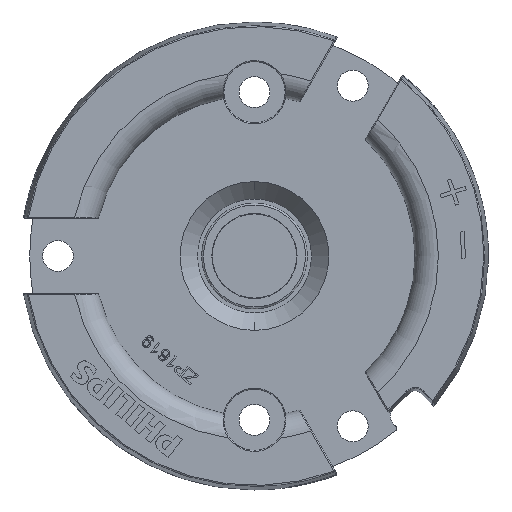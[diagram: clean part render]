
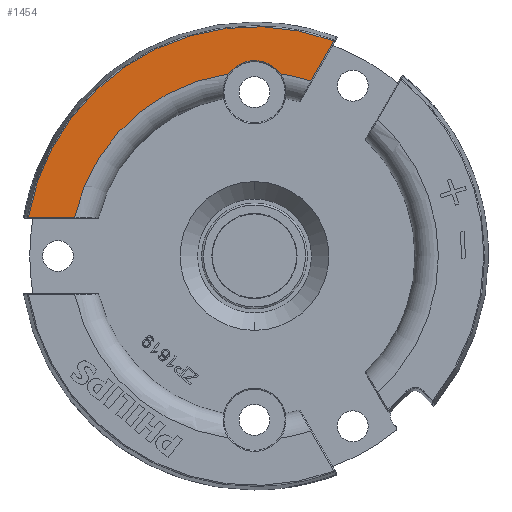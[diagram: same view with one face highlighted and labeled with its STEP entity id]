
A CAD part, front view. The second image highlights one B-rep face of the part: STEP entity #1454.
In plain terms, the highlighted planar face has unit normal (0, -1, 0).
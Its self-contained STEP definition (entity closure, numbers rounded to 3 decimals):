
#716=FACE_OUTER_BOUND('',#6231,.T.);
#1454=ADVANCED_FACE('',(#716),#2118,.F.);
#2118=PLANE('',#15212);
#3699=LINE('',#24400,#5139);
#3708=LINE('',#24686,#5148);
#5139=VECTOR('',#17577,1.);
#5148=VECTOR('',#17628,1.);
#6231=EDGE_LOOP('',(#8942,#8943,#8944,#8945,#8946,#8947,#8948));
#8942=ORIENTED_EDGE('',*,*,#13562,.F.);
#8943=ORIENTED_EDGE('',*,*,#13563,.F.);
#8944=ORIENTED_EDGE('',*,*,#13564,.F.);
#8945=ORIENTED_EDGE('',*,*,#13565,.F.);
#8946=ORIENTED_EDGE('',*,*,#13532,.F.);
#8947=ORIENTED_EDGE('',*,*,#13511,.F.);
#8948=ORIENTED_EDGE('',*,*,#13566,.T.);
#11766=VERTEX_POINT('',#24008);
#11767=VERTEX_POINT('',#24012);
#11778=VERTEX_POINT('',#24401);
#11794=VERTEX_POINT('',#24545);
#11795=VERTEX_POINT('',#24678);
#11796=VERTEX_POINT('',#24682);
#11797=VERTEX_POINT('',#24684);
#13511=EDGE_CURVE('',#11766,#11767,#14540,.T.);
#13532=EDGE_CURVE('',#11767,#11778,#3699,.T.);
#13562=EDGE_CURVE('',#11795,#11794,#14555,.T.);
#13563=EDGE_CURVE('',#11796,#11795,#14556,.T.);
#13564=EDGE_CURVE('',#11797,#11796,#14557,.T.);
#13565=EDGE_CURVE('',#11778,#11797,#14558,.T.);
#13566=EDGE_CURVE('',#11766,#11794,#3708,.T.);
#14540=CIRCLE('',#15174,24.506);
#14555=CIRCLE('',#15207,19.65);
#14556=CIRCLE('',#15209,3.375);
#14557=CIRCLE('',#15210,3.375);
#14558=CIRCLE('',#15211,19.65);
#15174=AXIS2_PLACEMENT_3D('',#24011,#17539,#17540);
#15207=AXIS2_PLACEMENT_3D('',#24679,#17618,#17619);
#15209=AXIS2_PLACEMENT_3D('',#24681,#17622,#17623);
#15210=AXIS2_PLACEMENT_3D('',#24683,#17624,#17625);
#15211=AXIS2_PLACEMENT_3D('',#24685,#17626,#17627);
#15212=AXIS2_PLACEMENT_3D('',#24687,#17629,#17630);
#17539=DIRECTION('',(0.,1.,0.));
#17540=DIRECTION('',(-0.986,0.,0.168));
#17577=DIRECTION('',(-0.5,0.,-0.866));
#17618=DIRECTION('',(0.,-1.,0.));
#17619=DIRECTION('',(-0.14,0.,0.99));
#17622=DIRECTION('',(0.,-1.,0.));
#17623=DIRECTION('',(-0.055,0.,0.999));
#17624=DIRECTION('',(0.,-1.,0.));
#17625=DIRECTION('',(0.815,0.,0.58));
#17626=DIRECTION('',(0.,-1.,0.));
#17627=DIRECTION('',(0.307,0.,0.952));
#17628=DIRECTION('',(1.,0.,0.));
#17629=DIRECTION('',(0.,1.,0.));
#17630=DIRECTION('',(-1.,0.,0.));
#24008=CARTESIAN_POINT('',(0.62,0.,-20.879));
#24011=CARTESIAN_POINT('',(24.777,0.,-25.004));
#24012=CARTESIAN_POINT('',(33.283,0.,-2.021));
#24400=CARTESIAN_POINT('',(33.283,0.,-2.021));
#24401=CARTESIAN_POINT('',(30.811,0.,-6.303));
#24545=CARTESIAN_POINT('',(5.565,0.,-20.879));
#24678=CARTESIAN_POINT('',(22.027,0.,-5.547));
#24679=CARTESIAN_POINT('',(24.777,0.,-25.004));
#24681=CARTESIAN_POINT('',(24.777,0.,-7.504));
#24682=CARTESIAN_POINT('',(24.593,0.,-4.134));
#24683=CARTESIAN_POINT('',(24.777,0.,-7.504));
#24684=CARTESIAN_POINT('',(27.527,0.,-5.547));
#24685=CARTESIAN_POINT('',(24.777,0.,-25.004));
#24686=CARTESIAN_POINT('',(0.62,0.,-20.879));
#24687=CARTESIAN_POINT('',(16.952,0.,-10.683));
